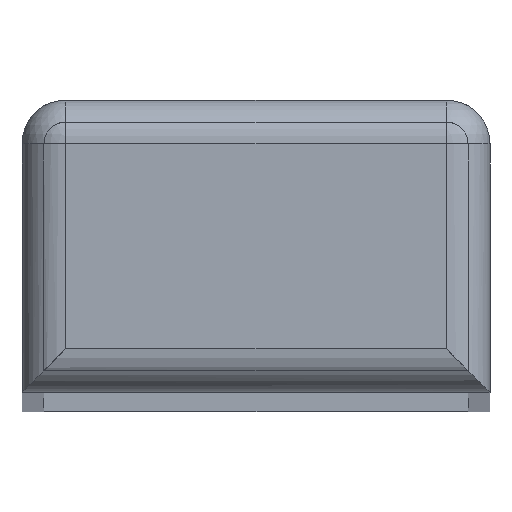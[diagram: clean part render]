
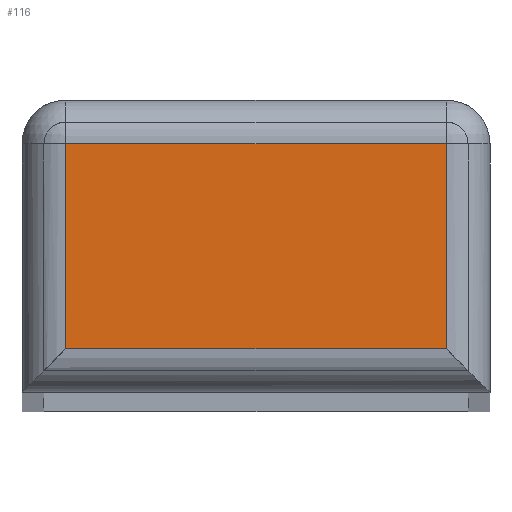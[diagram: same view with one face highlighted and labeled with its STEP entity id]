
A CAD part, top view. The second image highlights one B-rep face of the part: STEP entity #116.
In plain terms, the highlighted planar face has unit normal (0, 0, 1).
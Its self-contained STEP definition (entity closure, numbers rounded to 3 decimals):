
#106 = EDGE_CURVE ( 'NONE', #971, #972, #570, .T. ) ;
#107 = EDGE_CURVE ( 'NONE', #970, #971, #573, .T. ) ;
#108 = EDGE_CURVE ( 'NONE', #972, #973, #576, .T. ) ;
#109 = EDGE_CURVE ( 'NONE', #973, #970, #579, .T. ) ;
#116 = ADVANCED_FACE ( 'NONE', ( #485 ), #603, .T. ) ;
#345 = CARTESIAN_POINT ( 'NONE',  ( 13., -17., 382. ) ) ;
#346 = CARTESIAN_POINT ( 'NONE',  ( 13., -3., 382. ) ) ;
#347 = CARTESIAN_POINT ( 'NONE',  ( -13., -3., 382. ) ) ;
#348 = CARTESIAN_POINT ( 'NONE',  ( -13., -17., 382. ) ) ;
#481 = AXIS2_PLACEMENT_3D ( 'NONE', #604, #605, #606 ) ;
#485 = FACE_OUTER_BOUND ( 'NONE', #1045, .T. ) ;
#495 = VECTOR ( 'NONE', #581, 1000. ) ;
#496 = VECTOR ( 'NONE', #578, 1000. ) ;
#498 = VECTOR ( 'NONE', #575, 1000. ) ;
#499 = VECTOR ( 'NONE', #572, 1000. ) ;
#570 = LINE ( 'NONE', #571, #499 ) ;
#571 = CARTESIAN_POINT ( 'NONE',  ( -16., -3., 382. ) ) ;
#572 = DIRECTION ( 'NONE',  ( -1., 0., 0. ) ) ;
#573 = LINE ( 'NONE', #574, #498 ) ;
#574 = CARTESIAN_POINT ( 'NONE',  ( 13., -20., 382. ) ) ;
#575 = DIRECTION ( 'NONE',  ( 0., 1., 0. ) ) ;
#576 = LINE ( 'NONE', #577, #496 ) ;
#577 = CARTESIAN_POINT ( 'NONE',  ( -13., -20., 382. ) ) ;
#578 = DIRECTION ( 'NONE',  ( 0., -1., 0. ) ) ;
#579 = LINE ( 'NONE', #580, #495 ) ;
#580 = CARTESIAN_POINT ( 'NONE',  ( 16., -17., 382. ) ) ;
#581 = DIRECTION ( 'NONE',  ( 1., 0., 0. ) ) ;
#603 = PLANE ( 'NONE',  #481 ) ;
#604 = CARTESIAN_POINT ( 'NONE',  ( -16., -20., 382. ) ) ;
#605 = DIRECTION ( 'NONE',  ( 0., 0., 1. ) ) ;
#606 = DIRECTION ( 'NONE',  ( 1., 0., 0. ) ) ;
#970 = VERTEX_POINT ( 'NONE', #345 ) ;
#971 = VERTEX_POINT ( 'NONE', #346 ) ;
#972 = VERTEX_POINT ( 'NONE', #347 ) ;
#973 = VERTEX_POINT ( 'NONE', #348 ) ;
#1045 = EDGE_LOOP ( 'NONE', ( #1069, #1071, #1070, #1072 ) ) ;
#1069 = ORIENTED_EDGE ( 'NONE', *, *, #107, .T. ) ;
#1070 = ORIENTED_EDGE ( 'NONE', *, *, #108, .T. ) ;
#1071 = ORIENTED_EDGE ( 'NONE', *, *, #106, .T. ) ;
#1072 = ORIENTED_EDGE ( 'NONE', *, *, #109, .T. ) ;
